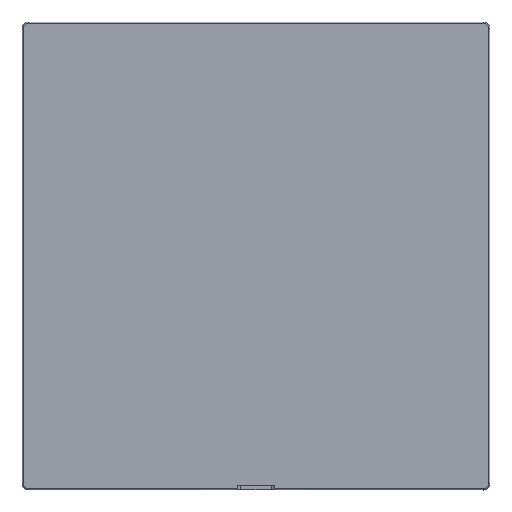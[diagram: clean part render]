
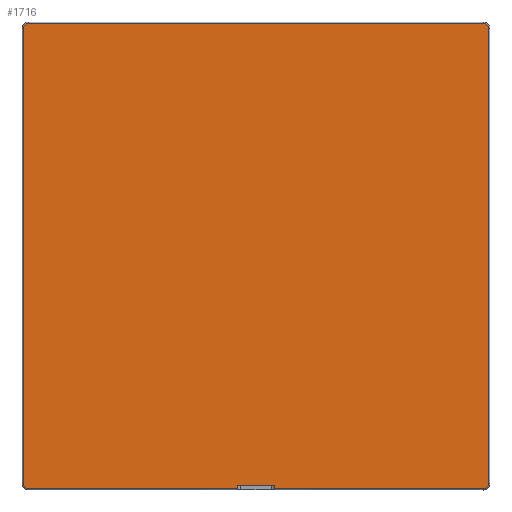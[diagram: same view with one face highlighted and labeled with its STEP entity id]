
A CAD part, left-side view. The second image highlights one B-rep face of the part: STEP entity #1716.
In plain terms, the highlighted planar face has unit normal (-1, 0, 0).
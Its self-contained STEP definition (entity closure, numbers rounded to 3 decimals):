
#5=DIRECTION('',(0.,-1.,0.));
#6=VECTOR('',#5,12.);
#7=CARTESIAN_POINT('',(-1.5,6.,-73.5));
#8=LINE('',#7,#6);
#9=DIRECTION('',(0.,0.,1.));
#10=VECTOR('',#9,0.987);
#11=CARTESIAN_POINT('',(-1.5,6.,-74.487));
#12=LINE('',#11,#10);
#17=DIRECTION('',(0.,0.,1.));
#18=VECTOR('',#17,0.987);
#19=CARTESIAN_POINT('',(-1.5,-6.,-74.487));
#20=LINE('',#19,#18);
#31=CARTESIAN_POINT('',(-1.5,-6.,-74.487));
#41=DIRECTION('',(0.,1.,0.));
#42=VECTOR('',#41,66.987);
#43=CARTESIAN_POINT('',(-1.5,-72.987,-74.487));
#44=LINE('',#43,#42);
#81=DIRECTION('',(0.,1.,0.));
#82=VECTOR('',#81,66.987);
#83=CARTESIAN_POINT('',(-1.5,6.,-74.487));
#84=LINE('',#83,#82);
#95=CARTESIAN_POINT('',(-1.5,6.,-74.487));
#106=CARTESIAN_POINT('',(-1.5,72.987,-74.487));
#107=CARTESIAN_POINT('',(-1.5,73.066,-74.487));
#108=CARTESIAN_POINT('',(-1.5,73.221,-74.475));
#109=CARTESIAN_POINT('',(-1.5,73.452,-74.42));
#110=CARTESIAN_POINT('',(-1.5,73.67,-74.329));
#111=CARTESIAN_POINT('',(-1.5,73.872,-74.206));
#112=CARTESIAN_POINT('',(-1.5,74.052,-74.052));
#113=CARTESIAN_POINT('',(-1.5,74.206,-73.872));
#114=CARTESIAN_POINT('',(-1.5,74.329,-73.67));
#115=CARTESIAN_POINT('',(-1.5,74.42,-73.452));
#116=CARTESIAN_POINT('',(-1.5,74.475,-73.221));
#117=CARTESIAN_POINT('',(-1.5,74.487,-73.066));
#118=CARTESIAN_POINT('',(-1.5,74.487,-72.987));
#125=DIRECTION('',(0.,0.,1.));
#126=VECTOR('',#125,145.974);
#127=CARTESIAN_POINT('',(-1.5,74.487,-72.987));
#128=LINE('',#127,#126);
#138=CARTESIAN_POINT('',(-1.5,74.487,72.987));
#139=CARTESIAN_POINT('',(-1.5,74.487,73.066));
#140=CARTESIAN_POINT('',(-1.5,74.475,73.221));
#141=CARTESIAN_POINT('',(-1.5,74.42,73.452));
#142=CARTESIAN_POINT('',(-1.5,74.329,73.67));
#143=CARTESIAN_POINT('',(-1.5,74.206,73.872));
#144=CARTESIAN_POINT('',(-1.5,74.052,74.052));
#145=CARTESIAN_POINT('',(-1.5,73.872,74.206));
#146=CARTESIAN_POINT('',(-1.5,73.67,74.329));
#147=CARTESIAN_POINT('',(-1.5,73.452,74.42));
#148=CARTESIAN_POINT('',(-1.5,73.221,74.475));
#149=CARTESIAN_POINT('',(-1.5,73.066,74.487));
#150=CARTESIAN_POINT('',(-1.5,72.987,74.487));
#157=DIRECTION('',(0.,-1.,0.));
#158=VECTOR('',#157,145.974);
#159=CARTESIAN_POINT('',(-1.5,72.987,74.487));
#160=LINE('',#159,#158);
#170=CARTESIAN_POINT('',(-1.5,-72.987,74.487));
#171=CARTESIAN_POINT('',(-1.5,-73.066,74.487));
#172=CARTESIAN_POINT('',(-1.5,-73.221,74.475));
#173=CARTESIAN_POINT('',(-1.5,-73.452,74.42));
#174=CARTESIAN_POINT('',(-1.5,-73.67,74.329));
#175=CARTESIAN_POINT('',(-1.5,-73.872,74.206));
#176=CARTESIAN_POINT('',(-1.5,-74.052,74.052));
#177=CARTESIAN_POINT('',(-1.5,-74.206,73.872));
#178=CARTESIAN_POINT('',(-1.5,-74.329,73.67));
#179=CARTESIAN_POINT('',(-1.5,-74.42,73.452));
#180=CARTESIAN_POINT('',(-1.5,-74.475,73.221));
#181=CARTESIAN_POINT('',(-1.5,-74.487,73.066));
#182=CARTESIAN_POINT('',(-1.5,-74.487,72.987));
#189=DIRECTION('',(0.,0.,-1.));
#190=VECTOR('',#189,145.974);
#191=CARTESIAN_POINT('',(-1.5,-74.487,72.987));
#192=LINE('',#191,#190);
#202=CARTESIAN_POINT('',(-1.5,-74.487,
-72.987));
#203=CARTESIAN_POINT('',(-1.5,-74.487,
-73.066));
#204=CARTESIAN_POINT('',(-1.5,-74.475,
-73.221));
#205=CARTESIAN_POINT('',(-1.5,-74.42,
-73.452));
#206=CARTESIAN_POINT('',(-1.5,-74.329,-73.67));
#207=CARTESIAN_POINT('',(-1.5,-74.206,-73.872));
#208=CARTESIAN_POINT('',(-1.5,-74.052,-74.052));
#209=CARTESIAN_POINT('',(-1.5,-73.872,-74.206));
#210=CARTESIAN_POINT('',(-1.5,-73.67,-74.329));
#211=CARTESIAN_POINT('',(-1.5,-73.452,-74.42));
#212=CARTESIAN_POINT('',(-1.5,-73.221,-74.475));
#213=CARTESIAN_POINT('',(-1.5,-73.066,
-74.487));
#214=CARTESIAN_POINT('',(-1.5,-72.987,
-74.487));
#1422=VERTEX_POINT('',#95);
#1431=VERTEX_POINT('',#31);
#1432=CARTESIAN_POINT('',(-1.5,-72.987,
-74.487));
#1433=VERTEX_POINT('',#1432);
#1434=VERTEX_POINT('',#202);
#1435=CARTESIAN_POINT('',(-1.5,-74.487,
72.987));
#1436=VERTEX_POINT('',#1435);
#1437=VERTEX_POINT('',#170);
#1438=CARTESIAN_POINT('',(-1.5,72.987,74.487));
#1439=VERTEX_POINT('',#1438);
#1440=VERTEX_POINT('',#138);
#1441=CARTESIAN_POINT('',(-1.5,74.487,
-72.987));
#1442=VERTEX_POINT('',#1441);
#1443=VERTEX_POINT('',#106);
#1504=CARTESIAN_POINT('',(-1.5,6.,-73.5));
#1506=VERTEX_POINT('',#1504);
#1514=CARTESIAN_POINT('',(-1.5,-6.,-73.5));
#1515=VERTEX_POINT('',#1514);
#1687=CARTESIAN_POINT('',(-1.5,0.,0.));
#1688=DIRECTION('',(1.,0.,0.));
#1689=DIRECTION('',(0.,1.,0.));
#1690=AXIS2_PLACEMENT_3D('',#1687,#1688,#1689);
#1691=PLANE('',#1690);
#1693=ORIENTED_EDGE('',*,*,#1692,.T.);
#1694=ORIENTED_EDGE('',*,*,#1674,.F.);
#1695=ORIENTED_EDGE('',*,*,#1663,.F.);
#1697=ORIENTED_EDGE('',*,*,#1696,.T.);
#1699=ORIENTED_EDGE('',*,*,#1698,.T.);
#1701=ORIENTED_EDGE('',*,*,#1700,.T.);
#1703=ORIENTED_EDGE('',*,*,#1702,.T.);
#1705=ORIENTED_EDGE('',*,*,#1704,.T.);
#1707=ORIENTED_EDGE('',*,*,#1706,.T.);
#1709=ORIENTED_EDGE('',*,*,#1708,.T.);
#1711=ORIENTED_EDGE('',*,*,#1710,.T.);
#1713=ORIENTED_EDGE('',*,*,#1712,.T.);
#1714=EDGE_LOOP('',(#1693,#1694,#1695,#1697,#1699,#1701,#1703,#1705,#1707,#1709,
#1711,#1713));
#1715=FACE_OUTER_BOUND('',#1714,.F.);
#1716=ADVANCED_FACE('',(#1715),#1691,.F.);
#119=B_SPLINE_CURVE_WITH_KNOTS('',3,(#106,#107,#108,#109,#110,#111,#112,#113,
#114,#115,#116,#117,#118),.UNSPECIFIED.,.F.,.F.,(4,1,1,1,1,1,1,1,1,1,4),(0.,
0.1,0.2,0.3,0.4,0.5,0.6,0.7,0.8,0.9,1.),.UNSPECIFIED.);
#151=B_SPLINE_CURVE_WITH_KNOTS('',3,(#138,#139,#140,#141,#142,#143,#144,#145,
#146,#147,#148,#149,#150),.UNSPECIFIED.,.F.,.F.,(4,1,1,1,1,1,1,1,1,1,4),(0.,
0.1,0.2,0.3,0.4,0.5,0.6,0.7,0.8,0.9,1.),.UNSPECIFIED.);
#183=B_SPLINE_CURVE_WITH_KNOTS('',3,(#170,#171,#172,#173,#174,#175,#176,#177,
#178,#179,#180,#181,#182),.UNSPECIFIED.,.F.,.F.,(4,1,1,1,1,1,1,1,1,1,4),(0.,
0.1,0.2,0.3,0.4,0.5,0.6,0.7,0.8,0.9,1.),.UNSPECIFIED.);
#215=B_SPLINE_CURVE_WITH_KNOTS('',3,(#202,#203,#204,#205,#206,#207,#208,#209,
#210,#211,#212,#213,#214),.UNSPECIFIED.,.F.,.F.,(4,1,1,1,1,1,1,1,1,1,4),(0.,
0.1,0.2,0.3,0.4,0.5,0.6,0.7,0.8,0.9,1.),.UNSPECIFIED.);
#1663=EDGE_CURVE('',#1422,#1506,#12,.T.);
#1674=EDGE_CURVE('',#1506,#1515,#8,.T.);
#1692=EDGE_CURVE('',#1431,#1515,#20,.T.);
#1696=EDGE_CURVE('',#1422,#1443,#84,.T.);
#1698=EDGE_CURVE('',#1443,#1442,#119,.T.);
#1700=EDGE_CURVE('',#1442,#1440,#128,.T.);
#1702=EDGE_CURVE('',#1440,#1439,#151,.T.);
#1704=EDGE_CURVE('',#1439,#1437,#160,.T.);
#1706=EDGE_CURVE('',#1437,#1436,#183,.T.);
#1708=EDGE_CURVE('',#1436,#1434,#192,.T.);
#1710=EDGE_CURVE('',#1434,#1433,#215,.T.);
#1712=EDGE_CURVE('',#1433,#1431,#44,.T.);
